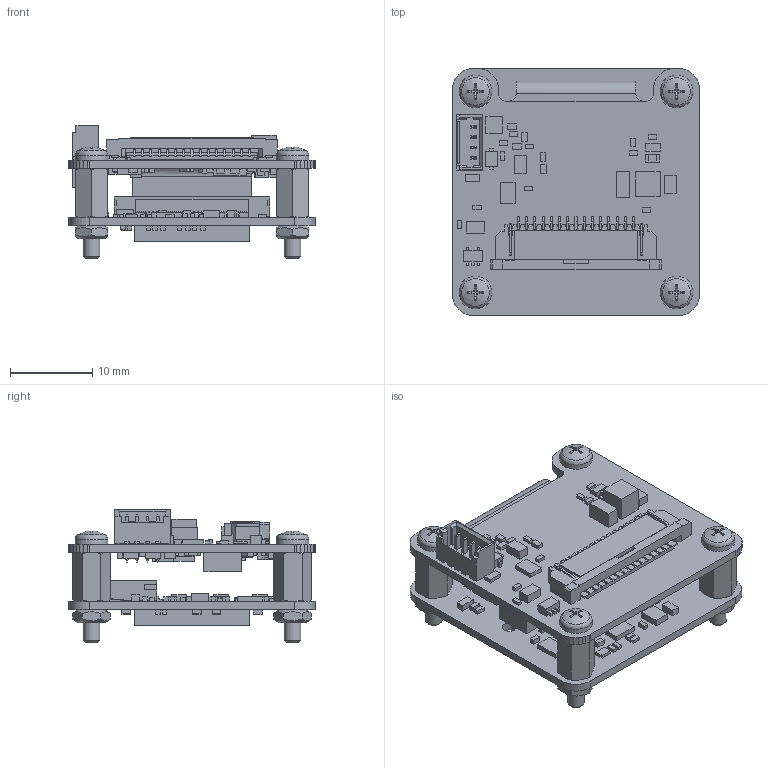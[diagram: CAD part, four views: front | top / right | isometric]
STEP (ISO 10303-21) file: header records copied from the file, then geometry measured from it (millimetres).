
FILE_DESCRIPTION(/* description */ ('289-20-1-02-00'),/* implementation_level */ '2;1');
FILE_NAME(/* name */ 'D:\HiDrive\1_Konstruktion\1_KUNDEN\TIS\289-20_MIPI-Dokumentation\289-20-1-02-00_AX-R120_IMX296-R100.stp',/* time_stamp */ '2020-12-17T08:33:01+01:00',/* author */ ('Westermann'),/* organization */ ('TIS, Bremen-Germany'),/* preprocessor_version */ 'ST-DEVELOPER v16.5',/* originating_system */ 'Autodesk Inventor 2017',/* authorisation */ '');
FILE_SCHEMA (('AUTOMOTIVE_DESIGN { 1 0 10303 214 3 1 1 }'));
Products named in the file (6): 289-20-1-02-00_AX-R120_IMX296-R100; ISO 4032 - M2; ISO 7045 - M2 x 4 - 4.8 - H; IMX296_MIPI_HB_R1_00; TISMIPI_JetsonNano_Adapter_folded_R1-20; Distanzbolzen-IA-M2x6_0100018_SIBALCO
Assembly tree (14 placements, depth 2):
  289-20-1-02-00_AX-R120_IMX296-R100
    ISO 4032 - M2  x4
    ISO 7045 - M2 x 4 - 4.8 - H  x4
    IMX296_MIPI_HB_R1_00
    TISMIPI_JetsonNano_Adapter_folded_R1-20
    Distanzbolzen-IA-M2x6_0100018_SIBALCO  x4
Bounding box: 30.1 x 30.1 x 16.21 mm (x, y, z)
Volume: 3331.2 mm3; surface area: 7331.3 mm2
Topology: 17 solids, 17 shells, 3652 faces, 10103 edges, 6553 vertices
Faces by surface type: plane 3257, cylinder 239, cone 124, torus 28, sphere 4
Full cylindrical faces by diameter (mm): 0.5 x5, 1.4 x4, 1.567 x8, 1.7 x2, 1.783 x4, 2 x8, 2.1 x8
Entity records: 112013 total; most frequent: CARTESIAN_POINT 19391, ORIENTED_EDGE 19142, DIRECTION 16937, EDGE_CURVE 9567, LINE 9013, VECTOR 9013, VERTEX_POINT 6244, AXIS2_PLACEMENT_3D 3962
